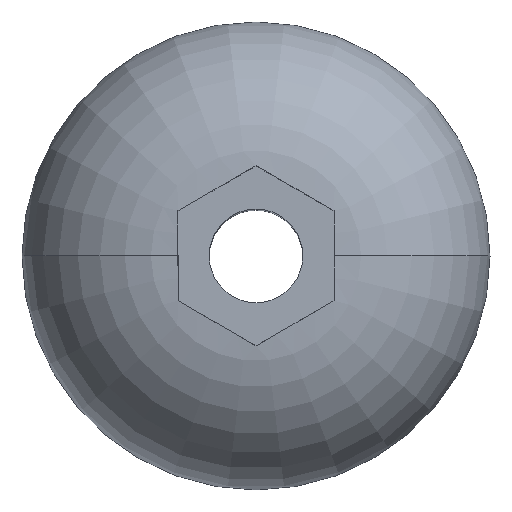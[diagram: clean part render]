
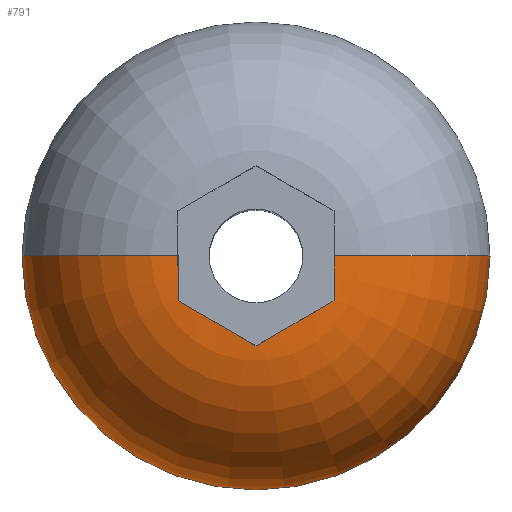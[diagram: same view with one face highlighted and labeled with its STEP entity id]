
A CAD part, top view. The second image highlights one B-rep face of the part: STEP entity #791.
In plain terms, the highlighted toroidal (fillet/blend) face has major radius 0.75 mm and minor radius 1.5 mm.
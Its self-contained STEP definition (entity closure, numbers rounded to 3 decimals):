
#71 = CARTESIAN_POINT ( 'NONE',  ( -0.75, -0.144, 1.5 ) ) ;
#76 = CARTESIAN_POINT ( 'NONE',  ( -0.75, -0.361, 1.498 ) ) ;
#78 = CARTESIAN_POINT ( 'NONE',  ( 0., -0.866, 1.496 ) ) ;
#122 = AXIS2_PLACEMENT_3D ( 'NONE', #189, #1600, #237 ) ;
#142 = B_SPLINE_CURVE_WITH_KNOTS ( 'NONE', 3,
 ( #258, #826, #1273, #982, #1127 ),
 .UNSPECIFIED., .F., .F.,
 ( 4, 1, 4 ),
 ( 0., 0., 0.001 ),
 .UNSPECIFIED. ) ;
#143 = CARTESIAN_POINT ( 'NONE',  ( -0.75, -0.433, 1.496 ) ) ;
#189 = CARTESIAN_POINT ( 'NONE',  ( 0.75, 0., 0. ) ) ;
#204 = CARTESIAN_POINT ( 'NONE',  ( -2.25, 0., 0. ) ) ;
#212 = EDGE_CURVE ( 'NONE', #1552, #1271, #1569, .T. ) ;
#237 = DIRECTION ( 'NONE',  ( 0., 0., -1. ) ) ;
#245 = CARTESIAN_POINT ( 'NONE',  ( -0.125, -0.794, 1.501 ) ) ;
#258 = CARTESIAN_POINT ( 'NONE',  ( 0.75, -0.433, 1.496 ) ) ;
#267 = AXIS2_PLACEMENT_3D ( 'NONE', #334, #341, #1277 ) ;
#283 = ORIENTED_EDGE ( 'NONE', *, *, #923, .T. ) ;
#301 = VERTEX_POINT ( 'NONE', #1017 ) ;
#334 = CARTESIAN_POINT ( 'NONE',  ( 0., 0., 0. ) ) ;
#336 = DIRECTION ( 'NONE',  ( 1., 0., 0. ) ) ;
#341 = DIRECTION ( 'NONE',  ( 0., 0., 1. ) ) ;
#355 = CARTESIAN_POINT ( 'NONE',  ( 0.75, -0.289, 1.499 ) ) ;
#457 = B_SPLINE_CURVE_WITH_KNOTS ( 'NONE', 3,
 ( #836, #245, #863, #1554, #143 ),
 .UNSPECIFIED., .F., .F.,
 ( 4, 1, 4 ),
 ( 0., 0., 0.001 ),
 .UNSPECIFIED. ) ;
#491 = AXIS2_PLACEMENT_3D ( 'NONE', #627, #611, #336 ) ;
#527 = CARTESIAN_POINT ( 'NONE',  ( -0.75, -0.289, 1.499 ) ) ;
#558 = ORIENTED_EDGE ( 'NONE', *, *, #1756, .T. ) ;
#591 = CARTESIAN_POINT ( 'NONE',  ( 2.25, 0., 0. ) ) ;
#611 = DIRECTION ( 'NONE',  ( 0., 0., 1. ) ) ;
#627 = CARTESIAN_POINT ( 'NONE',  ( 0., 0., 0. ) ) ;
#636 = EDGE_CURVE ( 'NONE', #830, #1023, #142, .T. ) ;
#759 = CARTESIAN_POINT ( 'NONE',  ( 0.75, -0.433, 1.496 ) ) ;
#767 = CARTESIAN_POINT ( 'NONE',  ( 0.75, -0.361, 1.498 ) ) ;
#791 = ADVANCED_FACE ( 'NONE', ( #1260 ), #883, .T. ) ;
#826 = CARTESIAN_POINT ( 'NONE',  ( 0.625, -0.505, 1.501 ) ) ;
#830 = VERTEX_POINT ( 'NONE', #1557 ) ;
#836 = CARTESIAN_POINT ( 'NONE',  ( 0., -0.866, 1.496 ) ) ;
#863 = CARTESIAN_POINT ( 'NONE',  ( -0.375, -0.65, 1.499 ) ) ;
#883 = TOROIDAL_SURFACE ( 'NONE', #267, 0.75, 1.5 ) ;
#892 = CARTESIAN_POINT ( 'NONE',  ( 0.75, -0.144, 1.5 ) ) ;
#923 = EDGE_CURVE ( 'NONE', #1271, #1134, #1155, .T. ) ;
#938 = EDGE_LOOP ( 'NONE', ( #1268, #1661, #283, #1490, #1368, #558, #1228 ) ) ;
#959 = CARTESIAN_POINT ( 'NONE',  ( -0.75, 0., 1.5 ) ) ;
#982 = CARTESIAN_POINT ( 'NONE',  ( 0.125, -0.794, 1.501 ) ) ;
#1016 = CIRCLE ( 'NONE', #1449, 1.5 ) ;
#1017 = CARTESIAN_POINT ( 'NONE',  ( -0.75, -0.433, 1.496 ) ) ;
#1023 = VERTEX_POINT ( 'NONE', #78 ) ;
#1054 = CARTESIAN_POINT ( 'NONE',  ( -0.75, -0.071, 1.5 ) ) ;
#1082 = CARTESIAN_POINT ( 'NONE',  ( -0.75, 0., 1.5 ) ) ;
#1127 = CARTESIAN_POINT ( 'NONE',  ( 0., -0.866, 1.496 ) ) ;
#1132 = B_SPLINE_CURVE_WITH_KNOTS ( 'NONE', 3,
 ( #1762, #76, #527, #71, #1054, #1082 ),
 .UNSPECIFIED., .F., .F.,
 ( 4, 2, 4 ),
 ( 0.011, 0.012, 0.012 ),
 .UNSPECIFIED. ) ;
#1134 = VERTEX_POINT ( 'NONE', #1816 ) ;
#1140 = DIRECTION ( 'NONE',  ( 0., 1., 0. ) ) ;
#1153 = EDGE_CURVE ( 'NONE', #1552, #1690, #1016, .T. ) ;
#1155 = CIRCLE ( 'NONE', #122, 1.5 ) ;
#1228 = ORIENTED_EDGE ( 'NONE', *, *, #1539, .T. ) ;
#1260 = FACE_OUTER_BOUND ( 'NONE', #938, .T. ) ;
#1268 = ORIENTED_EDGE ( 'NONE', *, *, #1153, .F. ) ;
#1271 = VERTEX_POINT ( 'NONE', #591 ) ;
#1273 = CARTESIAN_POINT ( 'NONE',  ( 0.375, -0.65, 1.499 ) ) ;
#1277 = DIRECTION ( 'NONE',  ( 1., 0., 0. ) ) ;
#1299 = CARTESIAN_POINT ( 'NONE',  ( 0.75, -0.072, 1.5 ) ) ;
#1368 = ORIENTED_EDGE ( 'NONE', *, *, #636, .T. ) ;
#1387 = EDGE_CURVE ( 'NONE', #1134, #830, #1574, .T. ) ;
#1449 = AXIS2_PLACEMENT_3D ( 'NONE', #1665, #1140, #1678 ) ;
#1490 = ORIENTED_EDGE ( 'NONE', *, *, #1387, .T. ) ;
#1539 = EDGE_CURVE ( 'NONE', #301, #1690, #1132, .T. ) ;
#1552 = VERTEX_POINT ( 'NONE', #204 ) ;
#1554 = CARTESIAN_POINT ( 'NONE',  ( -0.625, -0.505, 1.501 ) ) ;
#1557 = CARTESIAN_POINT ( 'NONE',  ( 0.75, -0.433, 1.496 ) ) ;
#1569 = CIRCLE ( 'NONE', #491, 2.25 ) ;
#1574 = B_SPLINE_CURVE_WITH_KNOTS ( 'NONE', 3,
 ( #1732, #1299, #892, #355, #767, #759 ),
 .UNSPECIFIED., .F., .F.,
 ( 4, 2, 4 ),
 ( 0., 0., 0. ),
 .UNSPECIFIED. ) ;
#1600 = DIRECTION ( 'NONE',  ( 0., -1., 0. ) ) ;
#1661 = ORIENTED_EDGE ( 'NONE', *, *, #212, .T. ) ;
#1665 = CARTESIAN_POINT ( 'NONE',  ( -0.75, 0., 0. ) ) ;
#1678 = DIRECTION ( 'NONE',  ( -1., 0., 0. ) ) ;
#1690 = VERTEX_POINT ( 'NONE', #959 ) ;
#1732 = CARTESIAN_POINT ( 'NONE',  ( 0.75, 0., 1.5 ) ) ;
#1756 = EDGE_CURVE ( 'NONE', #1023, #301, #457, .T. ) ;
#1762 = CARTESIAN_POINT ( 'NONE',  ( -0.75, -0.433, 1.496 ) ) ;
#1816 = CARTESIAN_POINT ( 'NONE',  ( 0.75, 0., 1.5 ) ) ;
